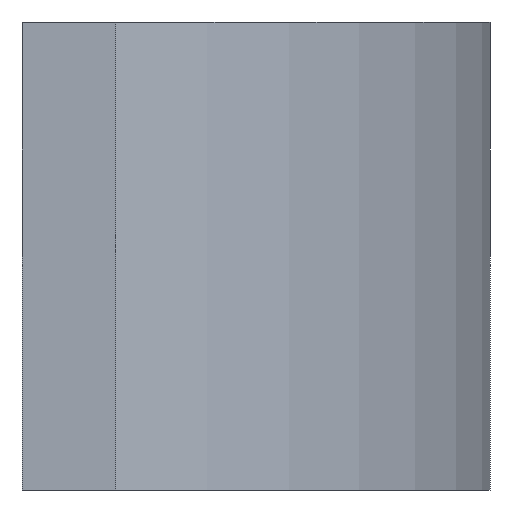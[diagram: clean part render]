
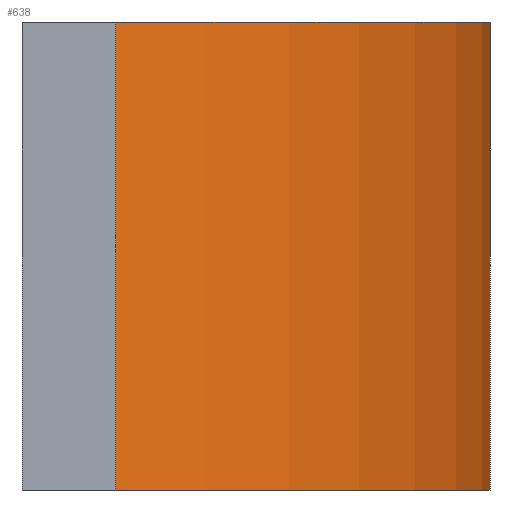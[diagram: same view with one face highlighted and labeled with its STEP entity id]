
A CAD part, left-side view. The second image highlights one B-rep face of the part: STEP entity #638.
In plain terms, the highlighted cylindrical face has radius 35 mm (diameter 70 mm), a partial arc.
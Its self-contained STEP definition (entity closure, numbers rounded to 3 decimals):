
#197=CARTESIAN_POINT('Vertex',(36.689,-54.494,0.)) ;
#200=CARTESIAN_POINT('Axis2P3D Location',(36.689,-19.494,0.)) ;
#204=CARTESIAN_POINT('Vertex',(5.066,-34.494,0.)) ;
#589=CARTESIAN_POINT('Axis2P3D Location',(36.689,-19.494,12.5)) ;
#594=CARTESIAN_POINT('Line Origine',(36.689,-54.494,12.5)) ;
#598=CARTESIAN_POINT('Vertex',(36.689,-54.494,25.)) ;
#620=CARTESIAN_POINT('Line Origine',(5.066,-34.494,12.5)) ;
#624=CARTESIAN_POINT('Vertex',(5.066,-34.494,25.)) ;
#627=CARTESIAN_POINT('Axis2P3D Location',(36.689,-19.494,25.)) ;
#201=DIRECTION('Axis2P3D Direction',(0.,0.,1.)) ;
#590=DIRECTION('Axis2P3D Direction',(0.,0.,1.)) ;
#591=DIRECTION('Axis2P3D XDirection',(-0.904,-0.429,-0.)) ;
#595=DIRECTION('Vector Direction',(0.,0.,1.)) ;
#621=DIRECTION('Vector Direction',(0.,0.,1.)) ;
#628=DIRECTION('Axis2P3D Direction',(0.,0.,1.)) ;
#202=AXIS2_PLACEMENT_3D('Circle Axis2P3D',#200,#201,$) ;
#592=AXIS2_PLACEMENT_3D('Cylinder Axis2P3D',#589,#590,#591) ;
#629=AXIS2_PLACEMENT_3D('Circle Axis2P3D',#627,#628,$) ;
#633=ORIENTED_EDGE('',*,*,#626,.F.) ;
#634=ORIENTED_EDGE('',*,*,#206,.T.) ;
#635=ORIENTED_EDGE('',*,*,#600,.T.) ;
#636=ORIENTED_EDGE('',*,*,#631,.F.) ;
#596=VECTOR('Line Direction',#595,1.) ;
#622=VECTOR('Line Direction',#621,1.) ;
#638=ADVANCED_FACE('PartBody',(#637),#593,.T.) ;
#203=CIRCLE('generated circle',#202,35.) ;
#630=CIRCLE('generated circle',#629,35.) ;
#593=CYLINDRICAL_SURFACE('generated cylinder',#592,35.) ;
#206=EDGE_CURVE('',#205,#198,#203,.T.) ;
#600=EDGE_CURVE('',#198,#599,#597,.T.) ;
#626=EDGE_CURVE('',#205,#625,#623,.T.) ;
#631=EDGE_CURVE('',#625,#599,#630,.T.) ;
#632=EDGE_LOOP('',(#633,#634,#635,#636)) ;
#637=FACE_OUTER_BOUND('',#632,.T.) ;
#597=LINE('Line',#594,#596) ;
#623=LINE('Line',#620,#622) ;
#198=VERTEX_POINT('',#197) ;
#205=VERTEX_POINT('',#204) ;
#599=VERTEX_POINT('',#598) ;
#625=VERTEX_POINT('',#624) ;
